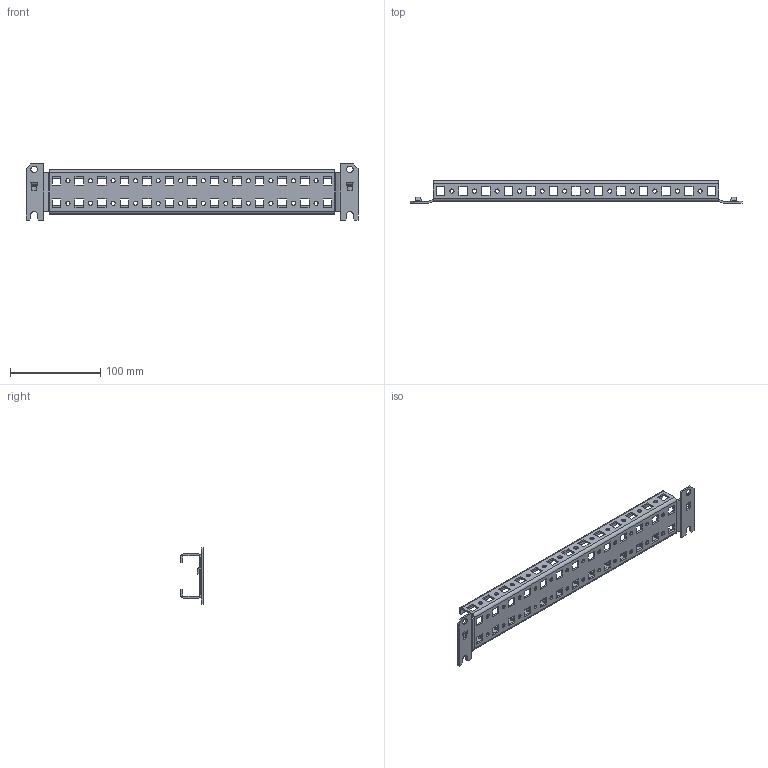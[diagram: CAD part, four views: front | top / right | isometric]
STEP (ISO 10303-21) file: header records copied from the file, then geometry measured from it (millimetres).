
FILE_DESCRIPTION(('STEP AP203'), '1');
FILE_NAME('Ðåéêà áîêîâàÿ 400õ49 ìì OptiBox M (2 øò) 419728 ÊÝÀÇ', '', ('UNSPECIFIED'), ('UNSPECIFIED'), 'C3D Converter', 'C3D Toolkit', '');
FILE_SCHEMA(('CONFIG_CONTROL_DESIGN'));
Length unit declared in the file: millimetre
Bounding box: 368 x 25 x 62.2 mm (x, y, z)
Volume: 58944.8 mm3; surface area: 67327.6 mm2
Topology: 1 solids, 1 shells, 410 faces, 1140 edges, 732 vertices
Faces by surface type: plane 294, cylinder 108, bspline 8
Full cylindrical faces by diameter (mm): 4.6 x72, 7.1 x2
Entity records: 13848 total; most frequent: CARTESIAN_POINT 3035, ORIENTED_EDGE 2132, DIRECTION 2044, EDGE_CURVE 1066, LINE 838, VECTOR 838, EDGE_LOOP 740, VERTEX_POINT 732
